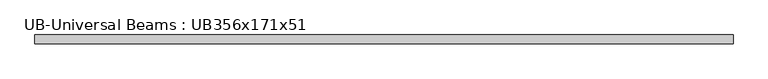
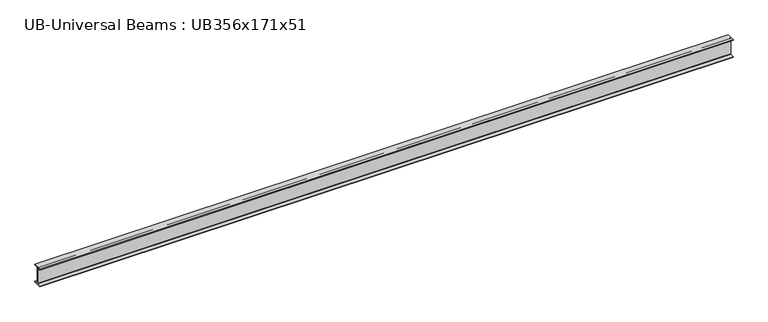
"""IFC4 building model written with IfcOpenShell, lengths in millimetres: beam geometry, UB-Universal Beams : UB356x171x51."""

from ifc_helpers import new_model, si_unit, point, frame, frame_2d, origin, place, context, project, spatial, polyline, circle_curve, trimmed, segment, composite_curve, outline, extrude, source, transform, mapped, element, save


def ub_universal_beams_ub356x171x51_e661f2e4(model_context):
    return source(origin(), model_context, "Body", "SweptSolid", [
        extrude(outline(composite_curve([segment(polyline([(85.75, -166.0), (85.75, -177.5), (-85.75, -177.5), (-85.75, -166.0), (-13.9, -166.0)]), True, "CONTINUOUS"), segment(trimmed(circle_curve(frame_2d((-13.9, -155.8)), 10.2), [point((-13.9, -166.0))], [point((-3.7, -155.8))], True, "CARTESIAN"), True, "CONTINUOUS"), segment(polyline([(-3.7, -155.8), (-3.7, 155.8)]), True, "CONTINUOUS"), segment(trimmed(circle_curve(frame_2d((-13.9, 155.8)), 10.2), [point((-3.7, 155.8))], [point((-13.9, 166.0))], True, "CARTESIAN"), True, "CONTINUOUS"), segment(polyline([(-13.9, 166.0), (-85.75, 166.0), (-85.75, 177.5), (85.75, 177.5), (85.75, 166.0), (13.9, 166.0)]), True, "CONTINUOUS"), segment(trimmed(circle_curve(frame_2d((13.9, 155.8)), 10.2), [point((13.9, 166.0))], [point((3.7, 155.8))], True, "CARTESIAN"), True, "CONTINUOUS"), segment(polyline([(3.7, 155.8), (3.7, -155.8)]), True, "CONTINUOUS"), segment(trimmed(circle_curve(frame_2d((13.9, -155.8)), 10.2), [point((3.7, -155.8))], [point((13.9, -166.0))], True, "CARTESIAN"), True, "CONTINUOUS"), segment(polyline([(13.9, -166.0), (85.75, -166.0)]), True, "CONTINUOUS")], self_intersect=False)), frame((-6777.6, 0.0, 0.0), z_axis=(1.0, 0.0, 0.0), x_axis=(0.0, 1.0, 0.0)), (0.0, 0.0, 1.0), 13555.2),
    ])


if __name__ == "__main__":
    model = new_model("IFC4")
    model_context = context("Model", 3, world=origin())
    ifc_project = project(units=[si_unit("LENGTHUNIT", "METRE", prefix="MILLI")], contexts=[model_context])
    site = spatial("IfcSite", under=ifc_project)
    building = spatial("IfcBuilding", under=site)
    placement = place(None, origin())
    ub_universal_beams_ub356x171x51_shape = ub_universal_beams_ub356x171x51_e661f2e4(model_context)
    element("IfcBeam", 1, ObjectType="UB-Universal Beams : UB356x171x51", at=placement, inside=building, context=model_context, shape_type="MappedRepresentation", body=[
        mapped(ub_universal_beams_ub356x171x51_shape, transform((0.0, 0.0, 0.0), x_axis=(1.0, 0.0, 0.0), y_axis=(0.0, 1.0, 0.0), z_axis=(0.0, 0.0, 1.0))),
    ])
    save(model, "model.ifc")
